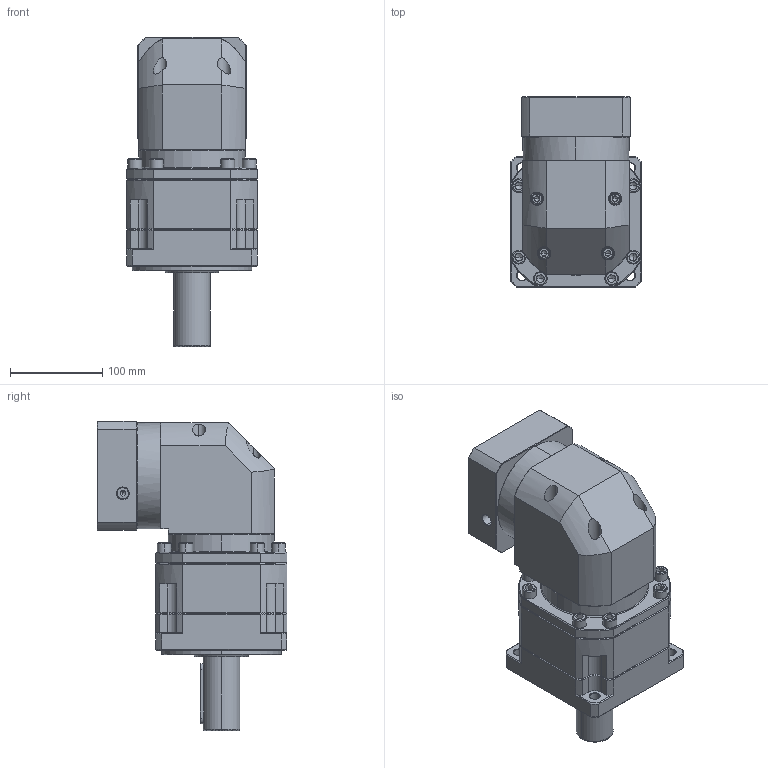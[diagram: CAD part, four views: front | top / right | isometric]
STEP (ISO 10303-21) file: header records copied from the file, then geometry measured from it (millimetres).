
FILE_DESCRIPTION (( 'STEP AP214' ), '1' );
FILE_NAME ('ZBR142A-D40-L2-P2-19-95-130-M8.step', '2023-09-02T08:08:48', ( '' ), ( '' ), 'SwSTEP 2.0', 'SolidWorks 2016', '' );
FILE_SCHEMA (( 'AUTOMOTIVE_DESIGN' ));
Length unit declared in the file: millimetre
Products named in the file (1): ZBR142A-D40-L2-P2-19-95-130-M8
Bounding box: 142 x 205.9 x 335.2 mm (x, y, z)
Volume: 4396263.4 mm3; surface area: 316936.7 mm2
Topology: 6 solids, 6 shells, 2588 faces, 6740 edges, 4278 vertices
Faces by surface type: plane 1232, cylinder 502, bspline 410, cone 398, torus 46
Entity records: 137016 total; most frequent: CARTESIAN_POINT 48525, ORIENTED_EDGE 13372, DIRECTION 10941, EDGE_CURVE 6686, VERTEX_POINT 4278, LINE 4273, VECTOR 4273, AXIS2_PLACEMENT_3D 3334
